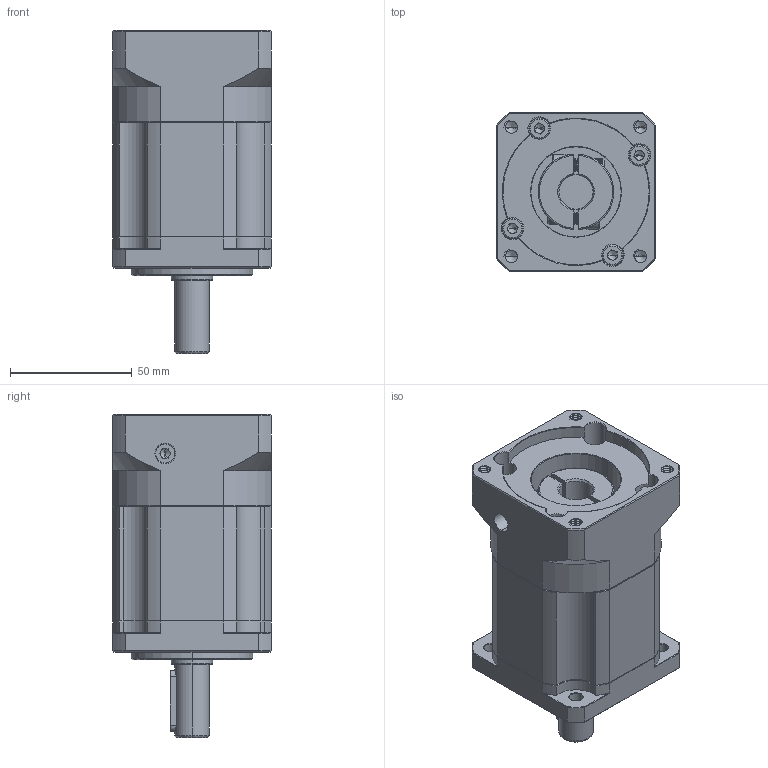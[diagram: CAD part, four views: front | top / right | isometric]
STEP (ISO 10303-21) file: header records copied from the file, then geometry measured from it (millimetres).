
FILE_DESCRIPTION (( 'STEP AP214' ), '1' );
FILE_NAME ('ZB060-D14-L2-P2-14-60-75-M6.step', '2023-08-16T07:01:40', ( '' ), ( '' ), 'SwSTEP 2.0', 'SolidWorks 2016', '' );
FILE_SCHEMA (( 'AUTOMOTIVE_DESIGN' ));
Length unit declared in the file: millimetre
Products named in the file (1): ZB060-D14-L2-P2-14-60-75-M6
Bounding box: 65 x 65 x 132.5 mm (x, y, z)
Volume: 324609.2 mm3; surface area: 58930.3 mm2
Topology: 6 solids, 6 shells, 2168 faces, 5843 edges, 3759 vertices
Faces by surface type: plane 1059, bspline 397, cylinder 392, cone 284, torus 36
Entity records: 117556 total; most frequent: CARTESIAN_POINT 42375, ORIENTED_EDGE 11626, DIRECTION 9188, EDGE_CURVE 5813, VERTEX_POINT 3759, LINE 3668, VECTOR 3668, AXIS2_PLACEMENT_3D 2760
